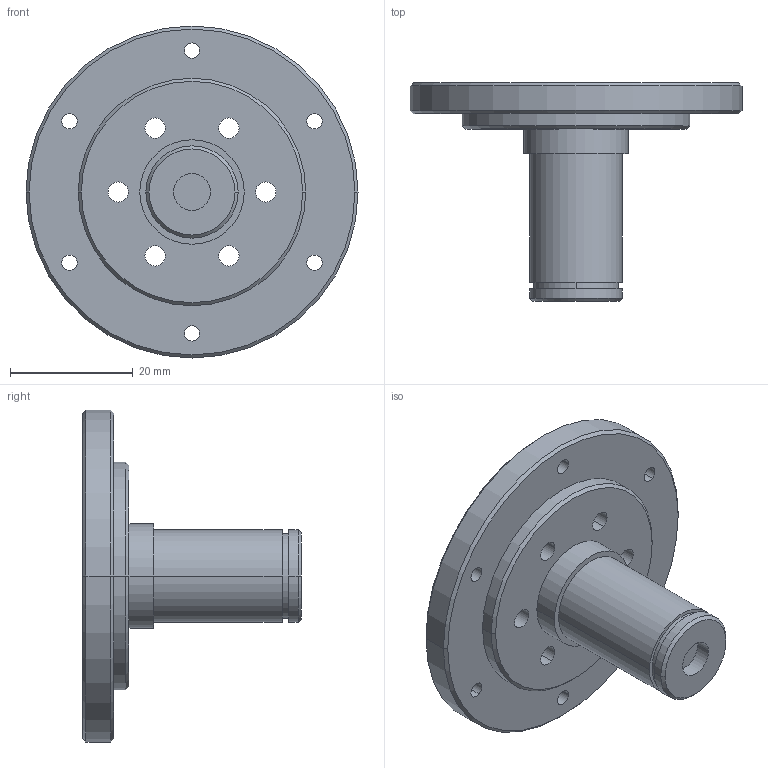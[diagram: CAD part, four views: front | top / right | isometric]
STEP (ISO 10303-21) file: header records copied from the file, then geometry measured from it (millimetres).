
FILE_DESCRIPTION((''),'2;1');
FILE_NAME('0013','2023-07-10T15:28:13',('Administrator'),(''),'CREO PARAMETRIC BY PTC INC, 2023014','CREO PARAMETRIC BY PTC INC, 2023014','');
FILE_SCHEMA(('CONFIG_CONTROL_DESIGN'));
Length unit declared in the file: millimetre
Products named in the file (1): 0013
Bounding box: 54 x 35.5 x 54 mm (x, y, z)
Volume: 17829.8 mm3; surface area: 7722.9 mm2
Topology: 1 solids, 1 shells, 57 faces, 136 edges, 88 vertices
Faces by surface type: cylinder 40, plane 9, cone 8
Entity records: 1780 total; most frequent: DIRECTION 338, CARTESIAN_POINT 281, ORIENTED_EDGE 272, AXIS2_PLACEMENT_3D 145, EDGE_CURVE 136, VERTEX_POINT 88, EDGE_LOOP 88, CIRCLE 88
